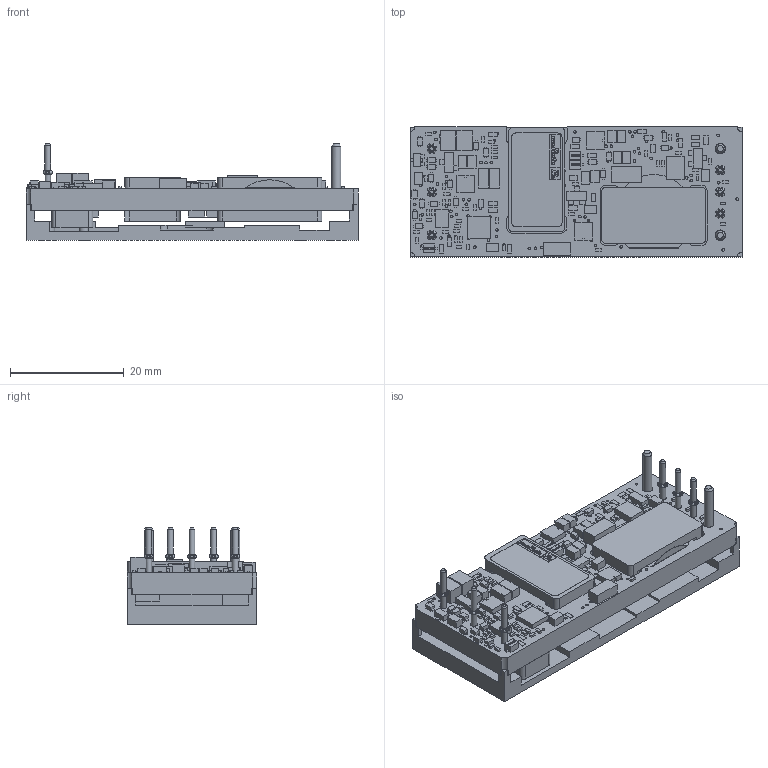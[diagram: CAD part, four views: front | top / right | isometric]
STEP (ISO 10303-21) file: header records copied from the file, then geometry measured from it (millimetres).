
FILE_DESCRIPTION (( 'STEP AP214' ), '1' );
FILE_NAME ('mps_dcdc_uwe_100_bp_a.step', '2014-08-06T15:37:42', ( 'deleteme' ), ( '' ), 'SwSTEP 2.0', 'SolidWorks 2013', '' );
FILE_SCHEMA (( 'AUTOMOTIVE_DESIGN' ));
Length unit declared in the file: inch
Products named in the file (1): mps_dcdc_uwe_100_bp_a
Bounding box: 58.42 x 22.86 x 17.02 mm (x, y, z)
Surface area: 9479.6 mm2 (no closed solid volume)
Topology: 0 solids, 162 shells, 1397 faces, 5587 edges, 4270 vertices
Faces by surface type: plane 963, cylinder 231, bspline 127, torus 60, cone 16
Full cylindrical faces by diameter (mm): 0.457 x77, 1.016 x12, 1.194 x6, 1.575 x2, 1.6 x4, 1.854 x2, 2.5 x2
Entity records: 89604 total; most frequent: CARTESIAN_POINT 29178, DIRECTION 7717, ORIENTED_EDGE 7551, EDGE_CURVE 5446, VERTEX_POINT 4253, VECTOR 3061, LINE 3061, AXIS2_PLACEMENT_3D 2328
